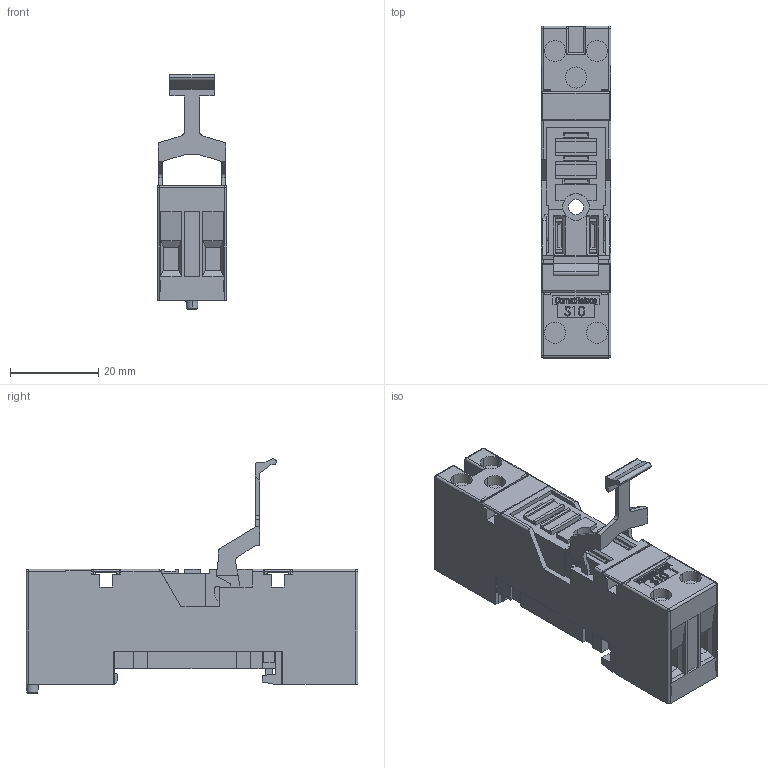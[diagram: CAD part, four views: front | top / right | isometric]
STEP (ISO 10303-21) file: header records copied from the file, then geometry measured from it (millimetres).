
FILE_DESCRIPTION (( 'STEP AP214' ), '1' );
FILE_NAME ('S10.STEP', '2024-04-11T06:25:41', ( '' ), ( '' ), 'SwSTEP 2.0', 'SolidWorks 2022', '' );
FILE_SCHEMA (( 'AUTOMOTIVE_DESIGN' ));
Length unit declared in the file: millimetre
Products named in the file (1): S10
Bounding box: 15.8 x 75 x 53 mm (x, y, z)
Volume: 24253.8 mm3; surface area: 13798.3 mm2
Topology: 1 solids, 13 shells, 1060 faces, 2894 edges, 1866 vertices
Faces by surface type: plane 815, cylinder 117, bspline 108, sphere 14, cone 4, torus 2
Entity records: 42341 total; most frequent: CARTESIAN_POINT 11981, ORIENTED_EDGE 5760, DIRECTION 4782, EDGE_CURVE 2880, VECTOR 2400, LINE 2400, VERTEX_POINT 1866, AXIS2_PLACEMENT_3D 1191
